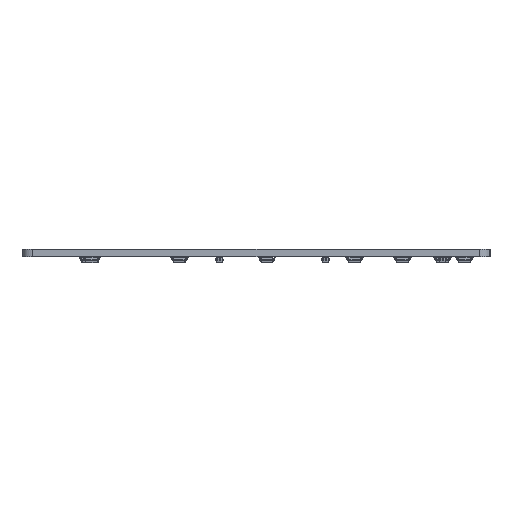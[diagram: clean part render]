
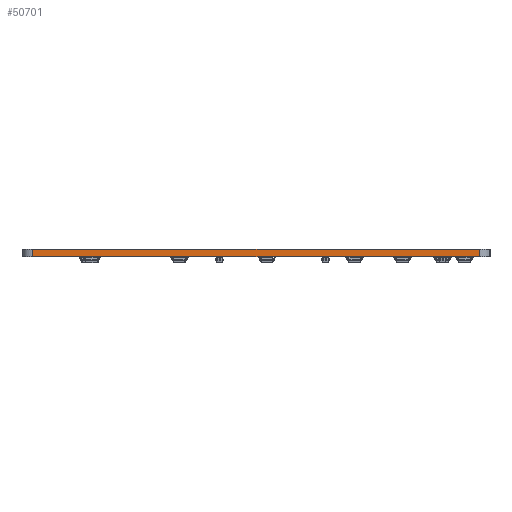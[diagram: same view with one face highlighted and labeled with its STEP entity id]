
A CAD part, left-side view. The second image highlights one B-rep face of the part: STEP entity #50701.
In plain terms, the highlighted planar face has unit normal (-1, 0, 0).
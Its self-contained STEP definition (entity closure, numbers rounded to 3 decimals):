
#5002 = PLANE('',#5003);
#5003 = AXIS2_PLACEMENT_3D('',#5004,#5005,#5006);
#5004 = CARTESIAN_POINT('',(0.,0.,1.6
    ));
#5005 = DIRECTION('',(0.,0.,1.));
#5006 = DIRECTION('',(1.,0.,0.));
#5056 = PLANE('',#5057);
#5057 = AXIS2_PLACEMENT_3D('',#5058,#5059,#5060);
#5058 = CARTESIAN_POINT('',(0.,0.,
    0.));
#5059 = DIRECTION('',(0.,0.,1.));
#5060 = DIRECTION('',(1.,0.,0.));
#5253 = VERTEX_POINT('',#5254);
#5254 = CARTESIAN_POINT('',(-204.788,48.419,0.));
#5269 = CYLINDRICAL_SURFACE('',#5270,2.381);
#5270 = AXIS2_PLACEMENT_3D('',#5271,#5272,#5273);
#5271 = CARTESIAN_POINT('',(-202.406,48.419,0.));
#5272 = DIRECTION('',(0.,0.,-1.));
#5273 = DIRECTION('',(1.,0.,0.));
#5281 = EDGE_CURVE('',#5253,#5282,#5284,.T.);
#5282 = VERTEX_POINT('',#5283);
#5283 = CARTESIAN_POINT('',(-204.788,-48.419,0.));
#5284 = SURFACE_CURVE('',#5285,(#5289,#5296),.PCURVE_S1.);
#5285 = LINE('',#5286,#5287);
#5286 = CARTESIAN_POINT('',(-204.788,48.419,0.));
#5287 = VECTOR('',#5288,1.);
#5288 = DIRECTION('',(0.,-1.,0.));
#5289 = PCURVE('',#5056,#5290);
#5290 = DEFINITIONAL_REPRESENTATION('',(#5291),#5295);
#5291 = LINE('',#5292,#5293);
#5292 = CARTESIAN_POINT('',(-204.788,48.419));
#5293 = VECTOR('',#5294,1.);
#5294 = DIRECTION('',(0.,-1.));
#5295 = ( GEOMETRIC_REPRESENTATION_CONTEXT(2) 
PARAMETRIC_REPRESENTATION_CONTEXT() REPRESENTATION_CONTEXT('2D SPACE',''
  ) );
#5296 = PCURVE('',#5297,#5302);
#5297 = PLANE('',#5298);
#5298 = AXIS2_PLACEMENT_3D('',#5299,#5300,#5301);
#5299 = CARTESIAN_POINT('',(-204.788,48.419,0.));
#5300 = DIRECTION('',(1.,0.,0.));
#5301 = DIRECTION('',(0.,-1.,0.));
#5302 = DEFINITIONAL_REPRESENTATION('',(#5303),#5307);
#5303 = LINE('',#5304,#5305);
#5304 = CARTESIAN_POINT('',(0.,0.));
#5305 = VECTOR('',#5306,1.);
#5306 = DIRECTION('',(1.,0.));
#5307 = ( GEOMETRIC_REPRESENTATION_CONTEXT(2) 
PARAMETRIC_REPRESENTATION_CONTEXT() REPRESENTATION_CONTEXT('2D SPACE',''
  ) );
#5326 = CYLINDRICAL_SURFACE('',#5327,2.381);
#5327 = AXIS2_PLACEMENT_3D('',#5328,#5329,#5330);
#5328 = CARTESIAN_POINT('',(-202.406,-48.419,0.));
#5329 = DIRECTION('',(0.,0.,-1.));
#5330 = DIRECTION('',(1.,0.,0.));
#29968 = VERTEX_POINT('',#29969);
#29969 = CARTESIAN_POINT('',(-204.788,48.419,1.6));
#29991 = EDGE_CURVE('',#29968,#29992,#29994,.T.);
#29992 = VERTEX_POINT('',#29993);
#29993 = CARTESIAN_POINT('',(-204.788,-48.419,1.6));
#29994 = SURFACE_CURVE('',#29995,(#29999,#30006),.PCURVE_S1.);
#29995 = LINE('',#29996,#29997);
#29996 = CARTESIAN_POINT('',(-204.788,48.419,1.6));
#29997 = VECTOR('',#29998,1.);
#29998 = DIRECTION('',(0.,-1.,0.));
#29999 = PCURVE('',#5002,#30000);
#30000 = DEFINITIONAL_REPRESENTATION('',(#30001),#30005);
#30001 = LINE('',#30002,#30003);
#30002 = CARTESIAN_POINT('',(-204.788,48.419));
#30003 = VECTOR('',#30004,1.);
#30004 = DIRECTION('',(0.,-1.));
#30005 = ( GEOMETRIC_REPRESENTATION_CONTEXT(2) 
PARAMETRIC_REPRESENTATION_CONTEXT() REPRESENTATION_CONTEXT('2D SPACE',''
  ) );
#30006 = PCURVE('',#5297,#30007);
#30007 = DEFINITIONAL_REPRESENTATION('',(#30008),#30012);
#30008 = LINE('',#30009,#30010);
#30009 = CARTESIAN_POINT('',(0.,-1.6));
#30010 = VECTOR('',#30011,1.);
#30011 = DIRECTION('',(1.,0.));
#30012 = ( GEOMETRIC_REPRESENTATION_CONTEXT(2) 
PARAMETRIC_REPRESENTATION_CONTEXT() REPRESENTATION_CONTEXT('2D SPACE',''
  ) );
#50651 = EDGE_CURVE('',#5282,#29992,#50652,.T.);
#50652 = SURFACE_CURVE('',#50653,(#50657,#50664),.PCURVE_S1.);
#50653 = LINE('',#50654,#50655);
#50654 = CARTESIAN_POINT('',(-204.788,-48.419,0.));
#50655 = VECTOR('',#50656,1.);
#50656 = DIRECTION('',(0.,0.,1.));
#50657 = PCURVE('',#5326,#50658);
#50658 = DEFINITIONAL_REPRESENTATION('',(#50659),#50663);
#50659 = LINE('',#50660,#50661);
#50660 = CARTESIAN_POINT('',(-3.142,0.));
#50661 = VECTOR('',#50662,1.);
#50662 = DIRECTION('',(0.,-1.));
#50663 = ( GEOMETRIC_REPRESENTATION_CONTEXT(2) 
PARAMETRIC_REPRESENTATION_CONTEXT() REPRESENTATION_CONTEXT('2D SPACE',''
  ) );
#50664 = PCURVE('',#5297,#50665);
#50665 = DEFINITIONAL_REPRESENTATION('',(#50666),#50670);
#50666 = LINE('',#50667,#50668);
#50667 = CARTESIAN_POINT('',(96.838,0.));
#50668 = VECTOR('',#50669,1.);
#50669 = DIRECTION('',(0.,-1.));
#50670 = ( GEOMETRIC_REPRESENTATION_CONTEXT(2) 
PARAMETRIC_REPRESENTATION_CONTEXT() REPRESENTATION_CONTEXT('2D SPACE',''
  ) );
#50680 = EDGE_CURVE('',#5253,#29968,#50681,.T.);
#50681 = SURFACE_CURVE('',#50682,(#50686,#50693),.PCURVE_S1.);
#50682 = LINE('',#50683,#50684);
#50683 = CARTESIAN_POINT('',(-204.788,48.419,0.));
#50684 = VECTOR('',#50685,1.);
#50685 = DIRECTION('',(0.,0.,1.));
#50686 = PCURVE('',#5269,#50687);
#50687 = DEFINITIONAL_REPRESENTATION('',(#50688),#50692);
#50688 = LINE('',#50689,#50690);
#50689 = CARTESIAN_POINT('',(-3.142,0.));
#50690 = VECTOR('',#50691,1.);
#50691 = DIRECTION('',(0.,-1.));
#50692 = ( GEOMETRIC_REPRESENTATION_CONTEXT(2) 
PARAMETRIC_REPRESENTATION_CONTEXT() REPRESENTATION_CONTEXT('2D SPACE',''
  ) );
#50693 = PCURVE('',#5297,#50694);
#50694 = DEFINITIONAL_REPRESENTATION('',(#50695),#50699);
#50695 = LINE('',#50696,#50697);
#50696 = CARTESIAN_POINT('',(0.,0.));
#50697 = VECTOR('',#50698,1.);
#50698 = DIRECTION('',(0.,-1.));
#50699 = ( GEOMETRIC_REPRESENTATION_CONTEXT(2) 
PARAMETRIC_REPRESENTATION_CONTEXT() REPRESENTATION_CONTEXT('2D SPACE',''
  ) );
#50701 = ADVANCED_FACE('',(#50702),#5297,.F.);
#50702 = FACE_BOUND('',#50703,.F.);
#50703 = EDGE_LOOP('',(#50704,#50705,#50706,#50707));
#50704 = ORIENTED_EDGE('',*,*,#50680,.T.);
#50705 = ORIENTED_EDGE('',*,*,#29991,.T.);
#50706 = ORIENTED_EDGE('',*,*,#50651,.F.);
#50707 = ORIENTED_EDGE('',*,*,#5281,.F.);
